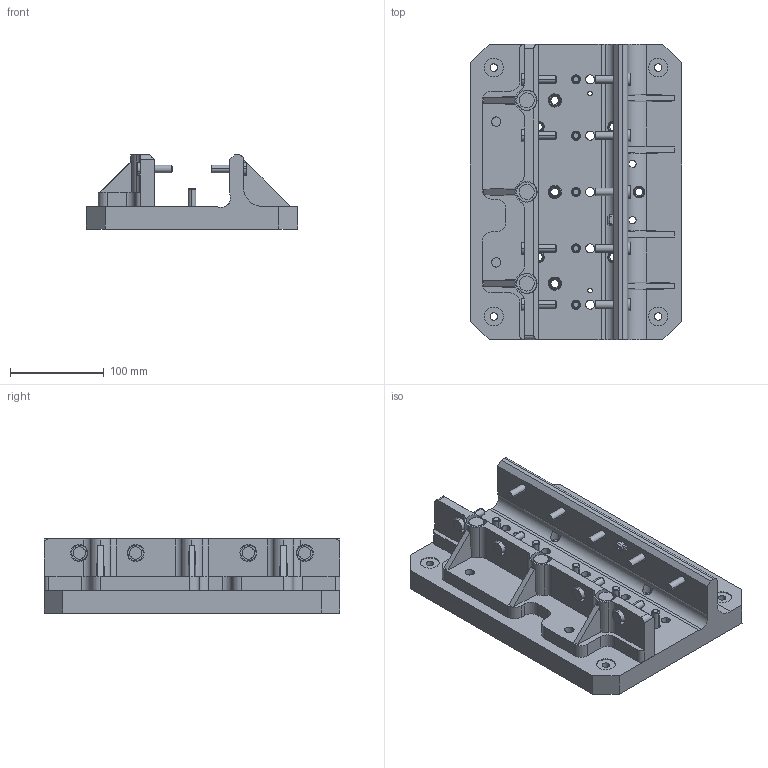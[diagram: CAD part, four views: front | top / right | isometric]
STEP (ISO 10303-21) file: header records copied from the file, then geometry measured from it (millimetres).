
FILE_DESCRIPTION(('STEP AP214'),'1');
FILE_NAME('EGT052_1706184_FLANSCHPLATTE_SW80.CATPart.stp','2015-09-14T13:06:13',('3D-Tool'),(' '),'Spatial InterOp 3D',' ',' ');
FILE_SCHEMA(('automotive_design'));
Length unit declared in the file: millimetre
Products named in the file (36): EGT052_1706184_FLANSCHPLATTE_SW80|EGT052_FLANSCHPLATTE_SW80|Bohrbearbeitung; EGT052_1706184_FLANSCHPLATTE_SW80|EGT_210|Bohrbearbeitung; 1; 2; 3; 4; 5; 6; 7; 8; 9; 10; 11; 12; 13; 14; 15; 16; 17; EGT052_1706184_FLANSCHPLATTE_SW80|EGT_212_Zentrierstift|Chamfer.18; 18; 19; 20; 21; 22; 23; 24; 25; 26; 27; 28; 29; 30; 31; 32; 33
Bounding box: 225 x 315 x 79 mm (x, y, z)
Volume: 2363794.1 mm3; surface area: 355772 mm2
Topology: 32 solids, 32 shells, 892 faces, 2225 edges, 1452 vertices
Faces by surface type: cylinder 586, plane 184, cone 122
Entity records: 36070 total; most frequent: CARTESIAN_POINT 5450, DIRECTION 5315, ORIENTED_EDGE 4450, EDGE_CURVE 2225, AXIS2_PLACEMENT_3D 2223, VERTEX_POINT 1448, CIRCLE 1295, EDGE_LOOP 1063
